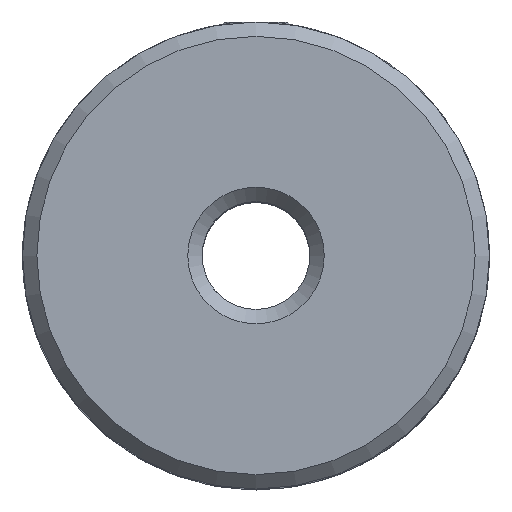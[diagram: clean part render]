
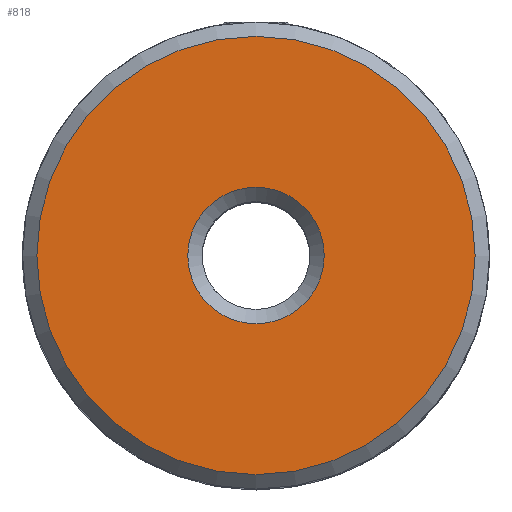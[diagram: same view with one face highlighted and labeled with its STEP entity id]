
A CAD part, top view. The second image highlights one B-rep face of the part: STEP entity #818.
In plain terms, the highlighted planar face has unit normal (0, 0, 1).
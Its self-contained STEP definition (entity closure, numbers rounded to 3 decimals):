
#177=PLANE('',#900);
#195=FACE_BOUND('',#326,.T.);
#253=FACE_OUTER_BOUND('',#325,.T.);
#325=EDGE_LOOP('',(#734));
#326=EDGE_LOOP('',(#735));
#364=CIRCLE('',#899,0.95);
#365=CIRCLE('',#901,3.05);
#436=VERTEX_POINT('',#13147);
#437=VERTEX_POINT('',#13150);
#541=EDGE_CURVE('',#436,#436,#364,.T.);
#542=EDGE_CURVE('',#437,#437,#365,.T.);
#734=ORIENTED_EDGE('',*,*,#542,.F.);
#735=ORIENTED_EDGE('',*,*,#541,.F.);
#818=ADVANCED_FACE('',(#253,#195),#177,.F.);
#899=AXIS2_PLACEMENT_3D('',#13148,#1106,#1107);
#900=AXIS2_PLACEMENT_3D('',#13149,#1108,#1109);
#901=AXIS2_PLACEMENT_3D('',#13151,#1110,#1111);
#1106=DIRECTION('center_axis',(0.,0.,1.));
#1107=DIRECTION('ref_axis',(-1.,0.,0.));
#1108=DIRECTION('center_axis',(0.,0.,-1.));
#1109=DIRECTION('ref_axis',(-1.,0.,0.));
#1110=DIRECTION('center_axis',(0.,0.,-1.));
#1111=DIRECTION('ref_axis',(-1.,0.,0.));
#13147=CARTESIAN_POINT('',(3.782,-1.937,0.662));
#13148=CARTESIAN_POINT('Origin',(2.832,-1.937,0.662));
#13149=CARTESIAN_POINT('Origin',(2.832,-1.937,0.662));
#13150=CARTESIAN_POINT('',(5.882,-1.937,0.662));
#13151=CARTESIAN_POINT('Origin',(2.832,-1.937,0.662));
